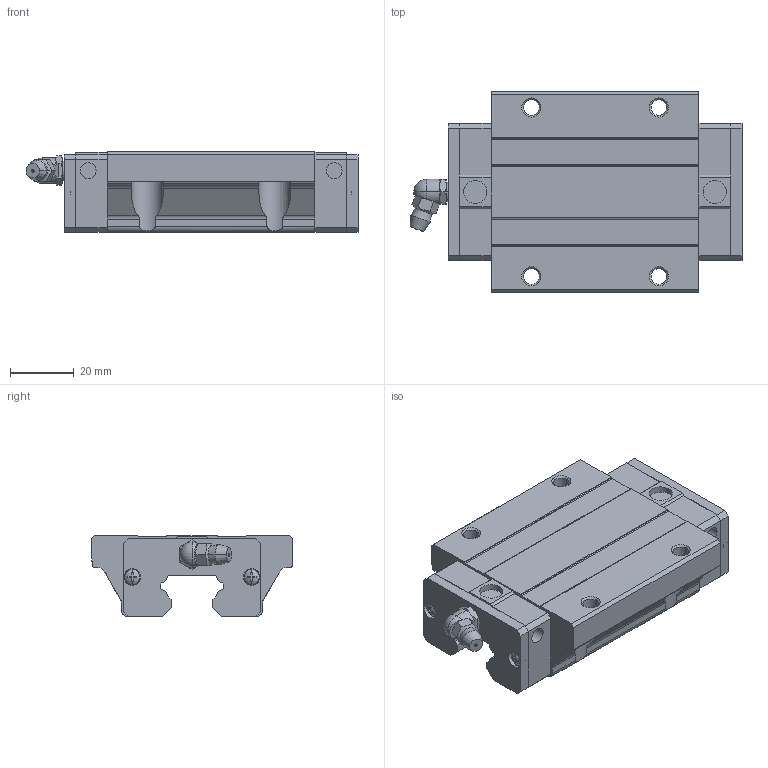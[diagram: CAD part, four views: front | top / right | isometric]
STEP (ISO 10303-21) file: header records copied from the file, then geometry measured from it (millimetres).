
FILE_DESCRIPTION(('starvars output'),'2;1');
FILE_NAME('cv20190625230517000113505.stp','23:05:17 2019/06/25',( 'Thomas Industrial Network Germany GmbH'),( 'Thomas Industrial Network Germany GmbH'),'unknown preprocess','ACIS' ,'unknown authorization');
FILE_SCHEMA(('CONFIG_CONTROL_DESIGN {UNKNOWN IMPLEMENTATION LEVEL}'));
Length unit declared in the file: millimetre
Products named in the file (10): PRODUCT_ID_1; PRODUCT_ID_2; PRODUCT_ID_3; PRODUCT_ID_4; PRODUCT_ID_5; PRODUCT_ID_6; PRODUCT_ID_7; PRODUCT_ID_8; PRODUCT_ID_9; PRODUCT_ID_10
Bounding box: 104.2 x 63 x 25.4 mm (x, y, z)
Volume: 96549.6 mm3; surface area: 28462.6 mm2
Topology: 10 solids, 10 shells, 416 faces, 1093 edges, 706 vertices
Faces by surface type: plane 265, cylinder 83, cone 56, sphere 12
Entity records: 12460 total; most frequent: CARTESIAN_POINT 2181, ORIENTED_EDGE 2178, DIRECTION 1696, EDGE_CURVE 1089, VERTEX_POINT 706, VECTOR 682, LINE 682, AXIS2_PLACEMENT_3D 507
